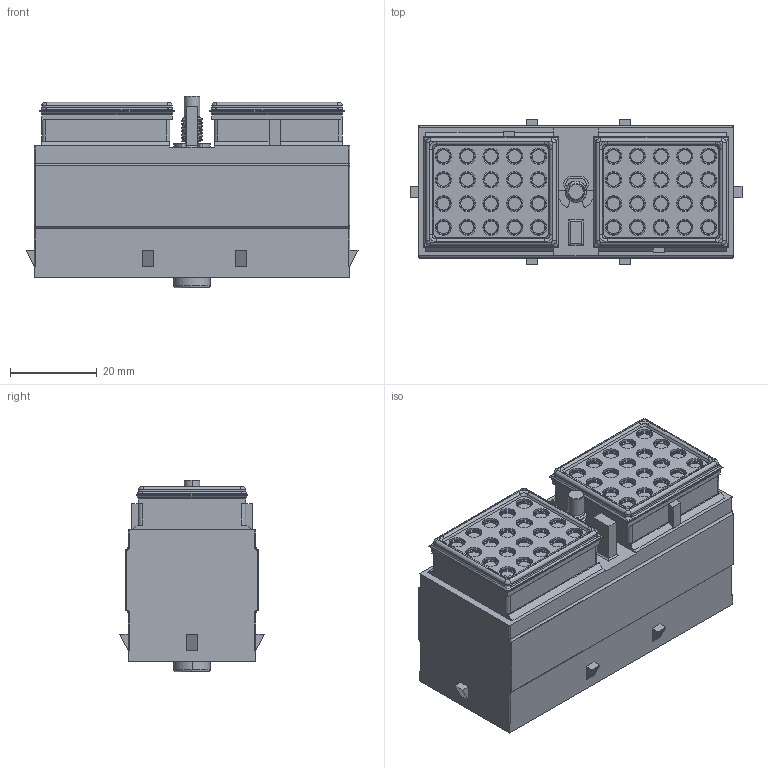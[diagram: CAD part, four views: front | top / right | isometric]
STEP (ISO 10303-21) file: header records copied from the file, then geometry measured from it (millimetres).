
FILE_DESCRIPTION((''),'2;1');
FILE_NAME('C-DRC18-40SBE','2013-06-13T',('workeradm'),('Tyco Electronics Ltd.'),'PRO/ENGINEER BY PARAMETRIC TECHNOLOGY CORPORATION, 2011490','PRO/ENGINEER BY PARAMETRIC TECHNOLOGY CORPORATION, 2011490','');
FILE_SCHEMA(('AUTOMOTIVE_DESIGN { 1 0 10303 214 1 1 1 1 }'));
Length unit declared in the file: millimetre
Products named in the file (1): C-DRC18-40SBE
Bounding box: 76.66 x 33.32 x 44.32 mm (x, y, z)
Volume: 75298.9 mm3; surface area: 15310.4 mm2
Topology: 1 solids, 1 shells, 1326 faces, 3007 edges, 1828 vertices
Faces by surface type: cylinder 524, plane 459, cone 138, bspline 113, torus 92
Entity records: 45029 total; most frequent: CARTESIAN_POINT 14635, DIRECTION 6623, ORIENTED_EDGE 6014, EDGE_CURVE 3007, AXIS2_PLACEMENT_3D 2536, VERTEX_POINT 1828, VECTOR 1551, LINE 1551
